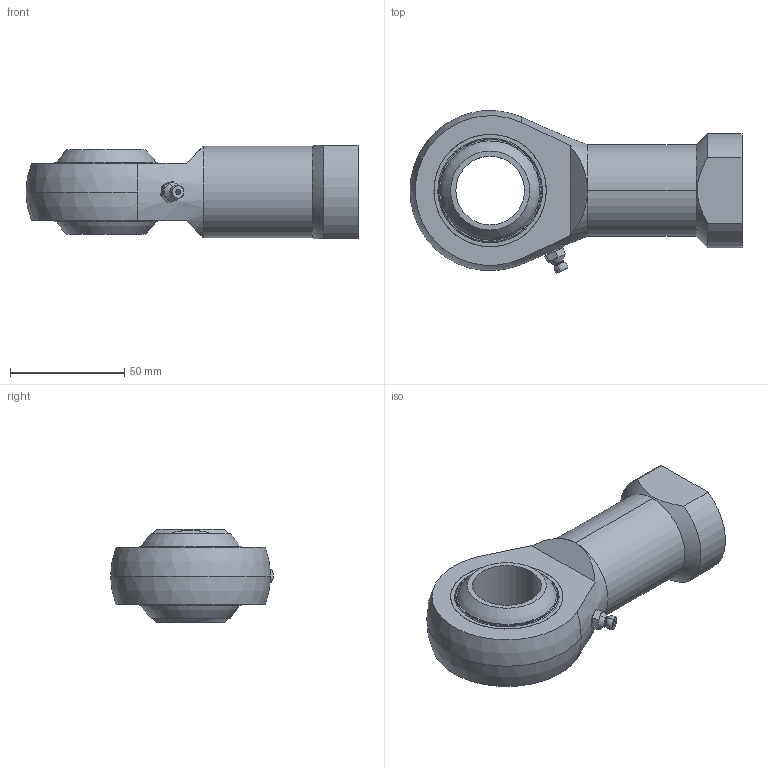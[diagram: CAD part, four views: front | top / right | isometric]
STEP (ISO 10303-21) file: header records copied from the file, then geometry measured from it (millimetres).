
FILE_DESCRIPTION (( 'STEP AP203' ), '1' );
FILE_NAME ('65760.W0130.step', '2014-02-11T16:43:44', ( 'User' ), ( '' ), 'SwSTEP 2.0', 'SolidWorks 2009', '' );
FILE_SCHEMA (( 'CONFIG_CONTROL_DESIGN' ));
Length unit declared in the file: millimetre
Products named in the file (5): 65760.W0130; Part1_65760.W0130; Part2_65760.W0130; Part3_M6; Part4_65760.W0130
Assembly tree (5 placements, depth 2):
  65760.W0130
    Part3_M6
    Part1_65760.W0130
    Part4_65760.W0130  x2
    Part2_65760.W0130
Bounding box: 145 x 71.03 x 41 mm (x, y, z)
Volume: 141231.8 mm3; surface area: 49825.1 mm2
Topology: 46 solids, 46 shells, 183 faces, 524 edges, 353 vertices
Faces by surface type: sphere 98, plane 27, torus 22, cylinder 20, cone 16
Entity records: 4817 total; most frequent: CARTESIAN_POINT 911, DIRECTION 814, ORIENTED_EDGE 558, AXIS2_PLACEMENT_3D 385, EDGE_CURVE 279, VERTEX_POINT 208, CIRCLE 207, EDGE_LOOP 189
